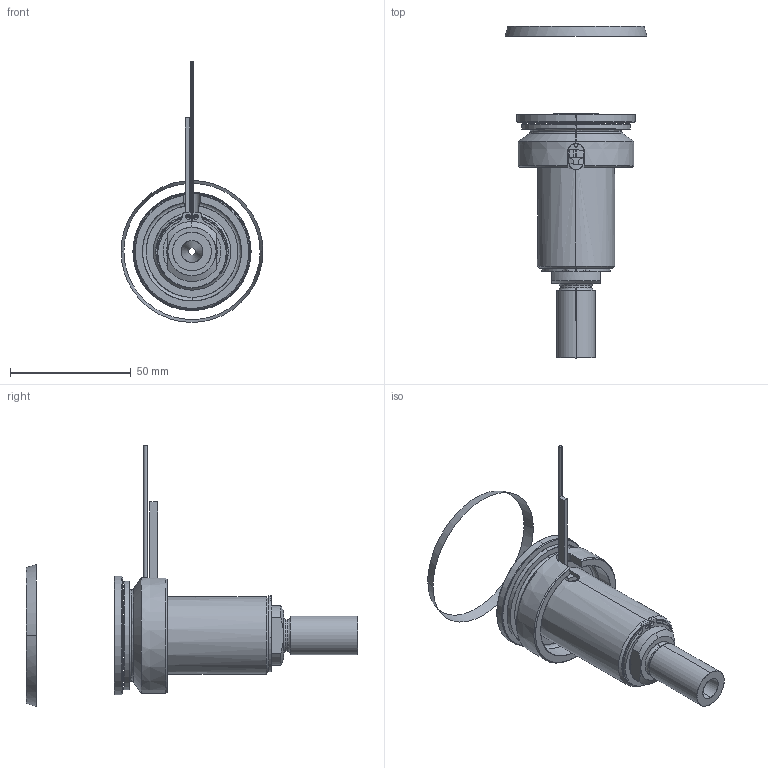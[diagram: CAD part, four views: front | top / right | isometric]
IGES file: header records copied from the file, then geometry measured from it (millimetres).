
Start section: SolidWorks IGES file using analytic representation for surfaces
Global section: file name: C:\Documents and Settings\ws-20\Desktop\TEMPORANEA\UGBE5001-S-A-P-5 [Ød-3.0 P-25 ØC-12].IGS; native system: SolidWorks 2012; preprocessor: SolidWorks 2012; author: ws-20; date: 120306.144957; units: millimetre
Bounding box: 58.79 x 137.44 x 108.04 mm (x, y, z)
Surface area: 33347.9 mm2 (no closed solid volume)
Topology: 0 solids, 0 shells, 111 faces, 2176 edges, 2176 vertices
Faces by surface type: revolution 67, bspline 44
